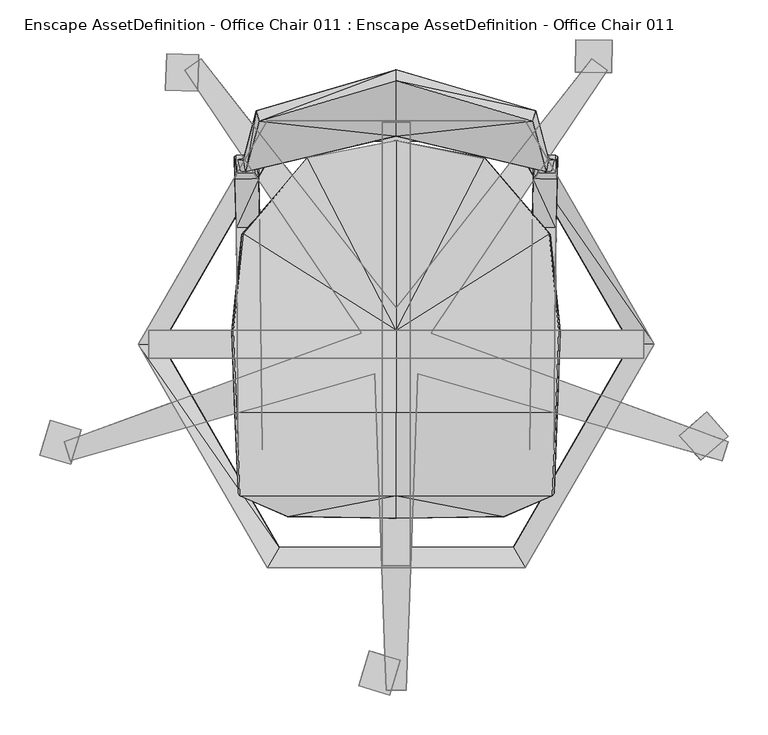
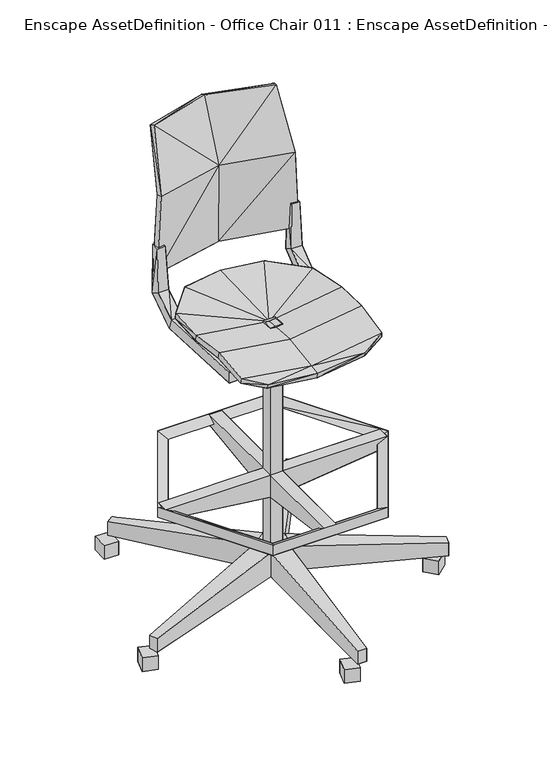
"""IFC4 building model written with IfcOpenShell, lengths in millimetres: geographic element geometry, Enscape AssetDefinition - Office Chair 011 : Enscape AssetDefinition - Office Chair 011."""

from ifc_helpers import new_model, si_unit, origin, place, context, project, spatial, triangles, source, transform, mapped, element, save


def enscape_assetdefinition_office_chair_011_enscape_0e559967(model_context):
    return source(origin(), model_context, "Body", "Tessellation", [
        triangles([(-172.780006, 280.8209949, 1276.8059315), (-0.272, 262.468009, 1108.2520483), (-0.258, 332.0739893, 1275.8580242), (-192.873002, 231.9959955, 1105.6979891), (-189.4679954, 217.5480038, 1107.8599937), (-176.3730098, 294.4250155, 1271.6079929), (175.8569984, 294.4250155, 1271.6079929), (-0.258, 345.9199828, 1270.0880276), (192.3410032, 231.9969947, 1105.6820017), (-0.251, 277.213984, 1105.5029428), (-203.6239991, 233.2139989, 881.0340134), (-200.2780005, 218.5929982, 880.8830051), (203.0809908, 233.2199942, 881.0610466), (-0.244, 278.4590206, 881.0239849), (199.8150019, 218.5810076, 880.8290113), (-0.285, 263.4589914, 880.9029894), (188.9829959, 217.5460054, 1107.8920412), (172.2639946, 280.8209949, 1276.8059315), (-0.258, 17.7410001, 792.0980175), (-112.3950018, 235.2769907, 800.9290192), (-201.3709934, -86.6610075, 830.501996), (-205.3820131, 17.7410001, 822.0589794), (-0.258, 256.6479973, 799.1169931), (-193.2219995, 139.3090022, 809.0590462), (-194.6250026, 138.7369895, 794.1359745), (-112.3950018, 234.0109888, 785.9830564), (-207.5420012, 16.4209999, 807.2739807), (-0.258, -34.5910004, 781.3980165), (-203.5589958, -86.2979937, 815.6670004), (-136.5469978, -217.2120142, 791.6750055), (-199.523995, -187.867003, 800.6880455), (-0.258, -191.0630107, 785.4840317), (-197.3589927, -191.0630107, 815.1820009), (-0.258, -86.6610075, 800.6730028), (-138.460998, -210.3629954, 778.4680355), (-0.258, -219.558001, 779.6840223), (136.0310046, -217.2120142, 791.6750055), (-0.258, -216.5659962, 764.9860096), (196.8429995, -191.0630107, 815.1820009), (137.9449957, -210.3629954, 778.4680355), (200.8550002, -86.6610075, 830.501996), (199.0080018, -187.867003, 800.6880455), (203.0430026, -86.2979937, 815.6670004), (207.026008, 16.4209999, 807.2739807), (194.1089912, 138.7369895, 794.1359745), (192.7070055, 139.3090022, 809.0590462), (204.867001, 17.7410001, 822.0589794), (111.8789995, 235.2769907, 800.9290192), (111.8799987, 234.0109888, 785.9830564), (-0.258, 256.6459989, 784.116964), (198.6350049, -131.7880041, 798.0309402), (173.4430106, 236.576003, 815.5380112), (171.3500061, 147.3969987, 787.6260521), (171.4519984, 157.8630023, 757.2140276), (168.62599, -132.6139984, 768.0519562), (168.6369995, -131.495998, 798.0309402), (198.6239954, -132.9060046, 768.0519562), (201.3459949, 146.86599, 787.6350632), (172.9449851, 208.8209929, 831.3759979), (178.5009868, 238.6689893, 957.2250023), (178.1629987, 215.9329861, 957.0410019), (200.9000011, 215.5929996, 957.1449926), (202.9419913, 208.3599927, 831.3329773), (203.4409979, 236.1149846, 815.4939732), (201.4479873, 157.3330019, 757.2230387), (201.2380074, 238.330002, 957.3280483), (-201.8620063, 146.86599, 787.6350632), (-199.1509981, -131.7880041, 798.0309402), (-169.1520116, -131.495998, 798.0309402), (-171.8659993, 147.3969987, 787.6260521), (-199.1399886, -132.9060046, 768.0519562), (-171.9669924, 157.8630023, 757.2140276), (-169.1420013, -132.6139984, 768.0519562), (-201.9639987, 157.3330019, 757.2230387), (-203.9559919, 236.1149846, 815.4939732), (-173.4600154, 208.8209929, 831.3759979), (-173.9590038, 236.576003, 815.5380112), (-201.7540006, 238.330002, 957.3280483), (-201.4149951, 215.5929996, 957.1449926), (-203.4580027, 208.3599927, 831.3329773), (-178.6780108, 215.9329861, 957.0410019), (-179.0170163, 238.6689893, 957.2250023), (325.412986, 0.0, 361.0019837), (162.7070017, -281.8160105, 330.869993), (147.6410063, 255.7210008, 345.9360065), (295.2820127, 0.0, 345.9360065), (325.412986, 0.0, 330.869993), (147.6410063, -255.7210008, 345.9360065), (-162.7060025, -281.8160105, 330.869993), (162.7070017, -281.8160105, 361.0019837), (-162.7060025, -281.8160105, 361.0019837), (-147.6410063, -255.7210008, 345.9360065), (-325.412986, 0.0, 361.0019837), (-162.7060025, 281.8160105, 330.869993), (-295.2809953, 0.0, 345.9360065), (-162.7060025, 281.8160105, 361.0019837), (-325.412986, 0.0, 330.869993), (-147.6410063, 255.7210008, 345.9360065), (162.7070017, 281.8160105, 330.869993), (162.7070017, 281.8160105, 361.0019837), (-17.5000004, -279.1020046, 329.4939869), (17.5000004, -279.1020046, 329.4939869), (17.5000004, -17.5000004, 360.0130179), (17.5000004, -279.1020046, 360.0130179), (-17.5000004, -279.1020046, 360.0130179), (-17.5000004, -17.5000004, 293.6249917), (-17.5000004, -17.5000004, 129.9059969), (-17.5000004, 17.5000004, 129.9059969), (-312.2529971, -17.5000004, 329.4939869), (17.5000004, -17.5000004, 129.9059969), (17.5000004, -17.5000004, 293.6249917), (17.5000004, 17.5000004, 129.9059969), (-17.5000004, 17.5000004, 293.6249917), (-312.2529971, 17.5000004, 360.0130179), (-312.2529971, 17.5000004, 329.4939869), (-312.2529971, -17.5000004, 360.0130179), (-17.5000004, -17.5000004, 360.0130179), (17.5000004, -17.5000004, 798.5710236), (17.5000004, 17.5000004, 798.5710236), (312.2529971, -17.5000004, 360.0130179), (17.5000004, 17.5000004, 360.0130179), (-17.5000004, 17.5000004, 798.5710236), (-17.5000004, -17.5000004, 798.5710236), (-17.5000004, 17.5000004, 360.0130179), (17.5000004, 279.9670136, 360.0130179), (-17.5000004, 279.9670136, 360.0130179), (17.5000004, 279.9670136, 329.4939869), (-17.5000004, 279.9670136, 329.4939869), (17.5000004, 17.5000004, 293.6249917), (312.2529971, 17.5000004, 360.0130179), (312.2529971, -17.5000004, 329.4939869), (312.2529971, 17.5000004, 329.4939869), (-27.0879996, -37.2840024, 71.9920038), (-266.6679889, 345.3989754, 87.2209934), (-418.6410164, -123.0569964, 47.6820005), (-43.8300009, 14.2409992, 71.9920038), (-266.6679889, 345.3999928, 47.6820005), (-246.0889943, 360.351006, 87.2209934), (0.0, 46.0850004, 71.9920038), (-246.0889943, 360.351006, 47.6820005), (-43.8300009, 14.2409992, 143.7640082), (0.0, 46.0850004, 143.7640082), (43.8300009, 14.2409992, 71.9920038), (246.4349942, 360.1000039, 47.6820005), (246.4349942, 360.1000039, 87.2209934), (266.3230063, 345.6509949, 87.2209934), (266.3230063, 345.6509949, 47.6820005), (418.7459882, -122.7329973, 47.6820005), (418.7459882, -122.7329973, 87.2209934), (43.8300009, 14.2409992, 143.7640082), (410.9129997, -146.8400105, 47.6820005), (27.0879996, -37.2840024, 143.7640082), (410.9129997, -146.8400105, 87.2209934), (-27.0879996, -37.2840024, 143.7640082), (27.0879996, -37.2840024, 71.9920038), (-12.8509995, -436.177991, 87.2209934), (12.8509995, -436.177991, 87.2209934), (-12.8509995, -436.177991, 47.6820005), (12.8509995, -436.177991, 47.6820005), (-411.0180079, -146.5159932, 87.2209934), (-411.0180079, -146.5159932, 47.6820005), (-418.6410164, -123.0569964, 87.2209934), (272.1610039, 383.177011, 39.9309974), (271.4490016, 342.3869863, -0.865), (225.5969856, 343.1870101, -0.865), (225.5969856, 343.1870101, 39.9309974), (226.3090061, 383.9780159, -0.865), (226.3090061, 383.9780159, 39.9309974), (272.1610039, 383.177011, -0.865), (271.4490016, 342.3869863, 39.9309974), (-8.4629997, -442.3240185, -0.865), (-47.4769985, -430.3960038, -0.865), (4.9450004, -398.4689919, 39.9309974), (4.9450004, -398.4689919, -0.865), (-8.4629997, -442.3240185, 39.9309974), (-34.0690006, -386.5410135, 39.9309974), (-34.0690006, -386.5410135, -0.865), (-47.4769985, -430.3960038, 39.9309974), (418.5090114, -115.753, -0.865), (383.8989873, -145.840008, -0.865), (391.7440026, -84.9639999, 39.9309974), (391.7440026, -84.9639999, -0.865), (357.1340149, -115.0499996, -0.865), (357.1340149, -115.0499996, 39.9309974), (418.5090114, -115.753, 39.9309974), (383.8989873, -145.840008, 39.9309974), (-250.4709942, 319.0349959, -0.865), (-291.2429787, 320.4590006, -0.865), (-248.8710011, 364.8659921, -0.865), (-289.6429855, 366.2899967, -0.865), (-289.6429855, 366.2899967, 39.9309974), (-291.2429787, 320.4590006, 39.9309974), (-250.4709942, 319.0349959, 39.9309974), (-248.8710011, 364.8659921, 39.9309974), (-410.6279881, -151.4829957, -0.865), (-449.6419948, -139.5550082, -0.865), (-436.2339832, -95.6999998, 39.9309974), (-397.2199765, -107.6280054, -0.865), (-436.2339832, -95.6999998, -0.865), (-410.6279881, -151.4829957, 39.9309974), (-449.6419948, -139.5550082, 39.9309974), (-397.2199765, -107.6280054, 39.9309974)], [[201, 200, 202], [202, 197, 201], [201, 197, 199], [199, 196, 201], [200, 201, 196], [202, 200, 195], [196, 195, 200], [198, 199, 197], [197, 202, 198], [195, 198, 202], [196, 199, 198], [198, 195, 196], [192, 193, 194], [194, 191, 192], [192, 191, 190], [190, 188, 192], [193, 192, 188], [194, 193, 187], [188, 187, 193], [189, 190, 191], [191, 194, 189], [187, 189, 194], [188, 190, 189], [189, 187, 188], [184, 186, 185], [185, 181, 184], [184, 181, 182], [182, 183, 184], [186, 184, 183], [185, 186, 180], [183, 180, 186], [179, 182, 181], [181, 185, 179], [180, 179, 185], [183, 182, 179], [179, 180, 183], [178, 175, 173], [173, 176, 178], [178, 176, 177], [177, 172, 178], [175, 178, 172], [173, 175, 171], [172, 171, 175], [174, 177, 176], [176, 173, 174], [171, 174, 173], [172, 177, 174], [174, 171, 172], [168, 166, 170], [170, 163, 168], [168, 163, 169], [169, 167, 168], [166, 168, 167], [170, 166, 165], [167, 165, 166], [164, 169, 163], [163, 170, 164], [165, 164, 170], [167, 169, 164], [164, 165, 167], [154, 141, 162], [135, 162, 141], [162, 160, 154], [160, 162, 135], [135, 161, 160], [160, 161, 133], [133, 154, 160], [133, 155, 159], [154, 133, 158], [159, 158, 133], [158, 156, 154], [157, 159, 155], [157, 156, 158], [158, 159, 157], [156, 157, 152], [152, 154, 156], [155, 152, 157], [152, 150, 154], [150, 152, 153], [151, 153, 152], [152, 155, 151], [153, 149, 150], [149, 153, 151], [148, 151, 155], [151, 148, 149], [149, 148, 143], [143, 150, 149], [155, 143, 148], [155, 133, 143], [150, 143, 147], [144, 147, 143], [147, 146, 150], [145, 146, 147], [147, 144, 145], [145, 144, 139], [143, 139, 144], [146, 145, 142], [142, 150, 146], [139, 142, 145], [150, 142, 154], [142, 141, 154], [141, 142, 138], [140, 138, 142], [142, 139, 140], [138, 134, 141], [134, 138, 140], [137, 140, 139], [140, 137, 134], [141, 136, 135], [161, 135, 136], [136, 133, 161], [134, 137, 136], [136, 141, 134], [139, 136, 137], [133, 136, 143], [136, 139, 143], [132, 131, 111], [120, 130, 121], [131, 132, 130], [130, 120, 131], [111, 129, 132], [130, 132, 129], [129, 121, 130], [128, 127, 129], [121, 129, 127], [127, 128, 126], [127, 125, 121], [126, 125, 127], [125, 126, 124], [124, 121, 125], [123, 122, 124], [121, 124, 122], [122, 119, 121], [131, 120, 103], [103, 111, 131], [121, 103, 120], [103, 121, 119], [119, 118, 103], [124, 117, 123], [117, 103, 118], [118, 123, 117], [117, 124, 114], [114, 116, 117], [115, 114, 124], [116, 114, 115], [115, 109, 116], [109, 115, 113], [124, 113, 115], [129, 113, 128], [126, 128, 113], [113, 124, 126], [113, 129, 112], [112, 108, 113], [129, 111, 110], [110, 112, 129], [107, 110, 111], [113, 106, 109], [116, 109, 106], [106, 117, 116], [106, 113, 108], [108, 107, 106], [111, 106, 107], [106, 111, 102], [102, 101, 106], [117, 106, 101], [101, 105, 117], [103, 117, 105], [105, 104, 103], [104, 102, 111], [111, 103, 104], [101, 102, 104], [104, 105, 101], [98, 85, 100], [96, 100, 99], [100, 96, 98], [94, 99, 85], [85, 98, 94], [99, 94, 96], [97, 94, 98], [98, 95, 97], [95, 98, 96], [93, 96, 94], [94, 97, 93], [96, 93, 95], [91, 93, 97], [89, 97, 95], [97, 89, 91], [95, 92, 89], [92, 95, 93], [93, 91, 92], [88, 92, 91], [90, 91, 89], [91, 90, 88], [84, 89, 92], [92, 88, 84], [89, 84, 90], [87, 84, 88], [87, 99, 100], [88, 86, 87], [86, 88, 90], [99, 87, 86], [86, 85, 99], [83, 90, 84], [84, 87, 83], [90, 83, 86], [100, 83, 87], [85, 86, 83], [83, 100, 85], [82, 81, 76], [79, 81, 82], [82, 78, 79], [80, 76, 81], [81, 79, 80], [76, 80, 67], [74, 67, 80], [67, 74, 71], [73, 71, 74], [75, 80, 79], [79, 78, 75], [80, 75, 74], [77, 75, 78], [78, 82, 77], [76, 77, 82], [72, 74, 75], [75, 77, 72], [74, 72, 73], [69, 73, 72], [73, 69, 68], [68, 71, 73], [71, 68, 67], [70, 72, 77], [77, 76, 70], [67, 70, 76], [72, 70, 69], [68, 69, 70], [70, 67, 68], [62, 66, 60], [60, 61, 62], [52, 60, 66], [64, 66, 62], [66, 64, 52], [54, 52, 64], [64, 65, 54], [55, 54, 65], [65, 57, 55], [62, 63, 64], [63, 62, 61], [65, 64, 63], [59, 61, 60], [60, 52, 59], [61, 59, 63], [63, 58, 65], [58, 63, 59], [57, 65, 58], [55, 57, 51], [58, 51, 57], [51, 56, 55], [54, 55, 56], [53, 59, 52], [52, 54, 53], [59, 53, 58], [56, 53, 54], [51, 58, 53], [53, 56, 51], [23, 48, 49], [49, 50, 23], [48, 46, 45], [45, 49, 48], [46, 47, 44], [44, 45, 46], [28, 50, 49], [45, 44, 28], [45, 28, 49], [43, 44, 47], [43, 28, 44], [47, 41, 43], [42, 43, 41], [42, 28, 43], [40, 28, 42], [40, 38, 28], [38, 40, 37], [41, 39, 42], [39, 37, 40], [40, 42, 39], [39, 41, 34], [34, 32, 39], [37, 39, 32], [37, 36, 38], [32, 36, 37], [35, 38, 36], [35, 28, 38], [36, 30, 35], [30, 36, 32], [34, 21, 33], [33, 32, 34], [32, 33, 30], [35, 31, 28], [30, 33, 31], [31, 35, 30], [33, 21, 29], [29, 31, 33], [31, 29, 28], [27, 29, 21], [29, 27, 28], [21, 22, 27], [28, 27, 25], [25, 27, 22], [28, 25, 26], [28, 26, 50], [20, 23, 50], [50, 26, 20], [24, 20, 26], [26, 25, 24], [22, 24, 25], [19, 23, 20], [19, 46, 48], [19, 47, 46], [24, 22, 19], [19, 22, 21], [21, 34, 19], [24, 19, 20], [19, 34, 41], [41, 47, 19], [19, 48, 23], [17, 15, 13], [16, 15, 17], [17, 2, 16], [2, 17, 18], [13, 9, 17], [18, 17, 9], [15, 16, 14], [14, 13, 15], [9, 13, 14], [11, 14, 16], [16, 12, 11], [12, 16, 2], [4, 11, 12], [14, 10, 9], [11, 4, 10], [10, 14, 11], [9, 7, 18], [7, 9, 10], [3, 18, 7], [18, 3, 2], [7, 8, 3], [10, 8, 7], [6, 8, 10], [10, 4, 6], [12, 5, 4], [6, 4, 5], [2, 5, 12], [5, 1, 6], [1, 3, 8], [8, 6, 1], [2, 3, 1], [1, 5, 2]], closed=False),
    ])


if __name__ == "__main__":
    model = new_model("IFC4")
    model_context = context("Model", 3, world=origin())
    ifc_project = project(units=[si_unit("LENGTHUNIT", "METRE", prefix="MILLI")], contexts=[model_context])
    site = spatial("IfcSite", under=ifc_project)
    building = spatial("IfcBuilding", under=site)
    placement = place(None, origin())
    enscape_assetdefinition_office_chair_011_enscape_shape = enscape_assetdefinition_office_chair_011_enscape_0e559967(model_context)
    element("IfcGeographicElement", 1, ObjectType="Enscape AssetDefinition - Office Chair 011 : Enscape AssetDefinition - Office Chair 011", at=placement, inside=building, context=model_context, shape_type="MappedRepresentation", body=[
        mapped(enscape_assetdefinition_office_chair_011_enscape_shape, transform((0.0, 0.0, 0.0), x_axis=(1.0, 0.0, 0.0), y_axis=(0.0, 1.0, 0.0), z_axis=(0.0, 0.0, 1.0))),
    ])
    save(model, "model.ifc")
